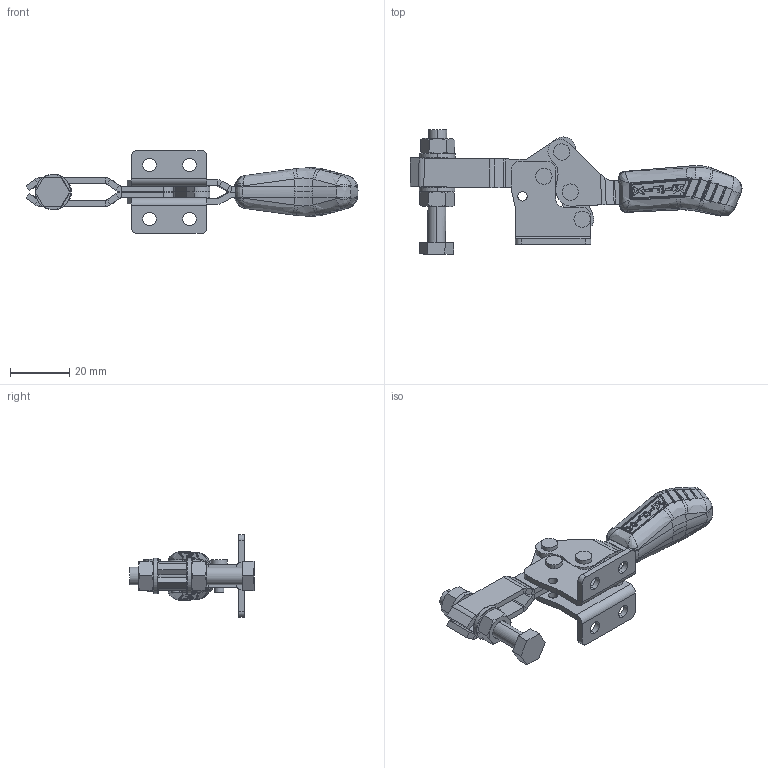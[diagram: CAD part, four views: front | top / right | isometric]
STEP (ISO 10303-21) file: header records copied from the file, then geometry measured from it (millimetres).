
FILE_DESCRIPTION (( 'STEP AP203' ), '1' );
FILE_NAME ('KF-106 D.STEP', '2014-08-15T17:11:37', ( 'Ricardo' ), ( '' ), 'SwSTEP 2.0', 'SolidWorks 2013', '' );
FILE_SCHEMA (( 'CONFIG_CONTROL_DESIGN' ));
Length unit declared in the file: millimetre
Products named in the file (13): 12.50019; 02.12007_Direita; 02.12007_Esquerda; 08.10004; 01.10009_Direita; 11.50001; 01.10009_Esquerda; 17.50001; 03.13003_Direita; 07.60004; 03.13003_Esquerda; KF-106 D; 06.50003
Assembly tree (18 placements, depth 2):
  KF-106 D
    02.12007_Direita
    02.12007_Esquerda
    08.10004  x2
    01.10009_Direita
    01.10009_Esquerda
    03.13003_Direita
    03.13003_Esquerda
    06.50003  x4
    12.50019
    11.50001  x2
    17.50001  x2
    07.60004
Bounding box: 112.11 x 42.1 x 28 mm (x, y, z)
Volume: 16196.5 mm3; surface area: 15994.2 mm2
Topology: 18 solids, 18 shells, 1048 faces, 2581 edges, 1562 vertices
Faces by surface type: cylinder 360, plane 317, bspline 264, cone 52, sphere 52, torus 3
Entity records: 34683 total; most frequent: CARTESIAN_POINT 12611, ORIENTED_EDGE 4790, DIRECTION 3668, EDGE_CURVE 2395, VERTEX_POINT 1454, AXIS2_PLACEMENT_3D 1410, EDGE_LOOP 1033, ADVANCED_FACE 975
